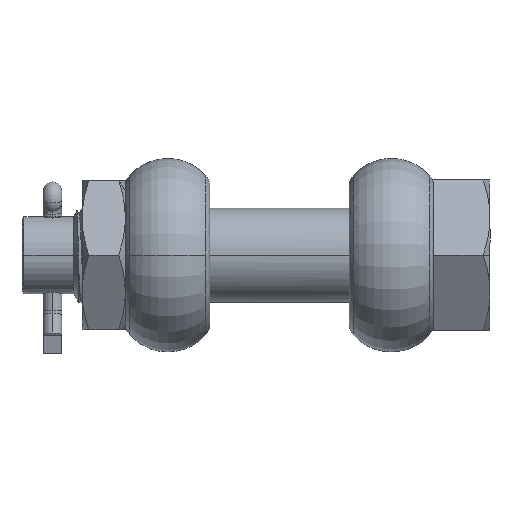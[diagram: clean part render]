
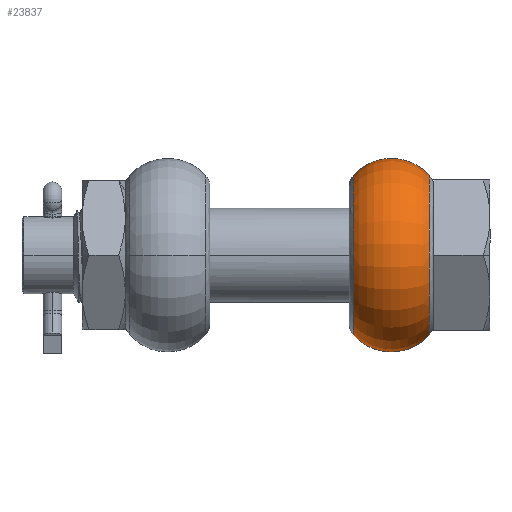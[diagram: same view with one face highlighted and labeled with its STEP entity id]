
A CAD part, front view. The second image highlights one B-rep face of the part: STEP entity #23837.
In plain terms, the highlighted toroidal (fillet/blend) face has major radius 24.5 mm and minor radius 27 mm.
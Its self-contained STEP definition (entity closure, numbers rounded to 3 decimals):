
#6725 = DIRECTION ( 'NONE',  ( 0., 0., -1. ) ) ;
#6726 = DIRECTION ( 'NONE',  ( 0., -1., 0. ) ) ;
#6727 = CARTESIAN_POINT ( 'NONE',  ( 59.5, 0., -24.5 ) ) ;
#6728 = AXIS2_PLACEMENT_3D ( 'NONE', #6727, #6726, #6725 ) ;
#6729 = CIRCLE ( 'NONE', #6728, 27. ) ;
#6730 = CARTESIAN_POINT ( 'NONE',  ( 39.25, 0., -42.359 ) ) ;
#6731 = DIRECTION ( 'NONE',  ( 0., 0., -1. ) ) ;
#6732 = DIRECTION ( 'NONE',  ( 1., 0., 0. ) ) ;
#6733 = CARTESIAN_POINT ( 'NONE',  ( 39.25, 0., 0. ) ) ;
#6734 = AXIS2_PLACEMENT_3D ( 'NONE', #6733, #6732, #6731 ) ;
#6735 = CIRCLE ( 'NONE', #6734, 42.359 ) ;
#6747 = DIRECTION ( 'NONE',  ( 0., -1., 0. ) ) ;
#6748 = DIRECTION ( 'NONE',  ( 1., 0., 0. ) ) ;
#6749 = CARTESIAN_POINT ( 'NONE',  ( 79.75, 0., 0. ) ) ;
#6750 = AXIS2_PLACEMENT_3D ( 'NONE', #6749, #6748, #6747 ) ;
#6751 = CIRCLE ( 'NONE', #6750, 42.359 ) ;
#6762 = CARTESIAN_POINT ( 'NONE',  ( 79.75, 0., -42.359 ) ) ;
#6957 = TOROIDAL_SURFACE ( 'NONE', #6971, 24.5, 27. ) ;
#6958 = FACE_OUTER_BOUND ( 'NONE', #23838, .T. ) ;
#6968 = DIRECTION ( 'NONE',  ( 0., 0., -1. ) ) ;
#6969 = DIRECTION ( 'NONE',  ( 1., 0., 0. ) ) ;
#6970 = CARTESIAN_POINT ( 'NONE',  ( 59.5, 0., 0. ) ) ;
#6971 = AXIS2_PLACEMENT_3D ( 'NONE', #6970, #6969, #6968 ) ;
#7009 = CARTESIAN_POINT ( 'NONE',  ( 79.75, 0., 42.359 ) ) ;
#7010 = DIRECTION ( 'NONE',  ( 0., 0., 1. ) ) ;
#7011 = DIRECTION ( 'NONE',  ( 0., 1., 0. ) ) ;
#7012 = CARTESIAN_POINT ( 'NONE',  ( 59.5, 0., 24.5 ) ) ;
#7013 = AXIS2_PLACEMENT_3D ( 'NONE', #7012, #7011, #7010 ) ;
#7014 = CIRCLE ( 'NONE', #7013, 27. ) ;
#7015 = CARTESIAN_POINT ( 'NONE',  ( 39.25, 0., 42.359 ) ) ;
#23696 = ORIENTED_EDGE ( 'NONE', *, *, #23882, .F. ) ;
#23697 = ORIENTED_EDGE ( 'NONE', *, *, #23699, .T. ) ;
#23699 = EDGE_CURVE ( 'NONE', #23878, #23700, #6735, .T. ) ;
#23700 = VERTEX_POINT ( 'NONE', #6730 ) ;
#23701 = ORIENTED_EDGE ( 'NONE', *, *, #23702, .T. ) ;
#23702 = EDGE_CURVE ( 'NONE', #23700, #23723, #6729, .T. ) ;
#23723 = VERTEX_POINT ( 'NONE', #6762 ) ;
#23725 = ORIENTED_EDGE ( 'NONE', *, *, #23726, .F. ) ;
#23726 = EDGE_CURVE ( 'NONE', #23884, #23723, #6751, .T. ) ;
#23837 = ADVANCED_FACE ( 'NONE', ( #6958 ), #6957, .T. ) ;
#23838 = EDGE_LOOP ( 'NONE', ( #23696, #23697, #23701, #23725 ) ) ;
#23878 = VERTEX_POINT ( 'NONE', #7015 ) ;
#23882 = EDGE_CURVE ( 'NONE', #23878, #23884, #7014, .T. ) ;
#23884 = VERTEX_POINT ( 'NONE', #7009 ) ;
